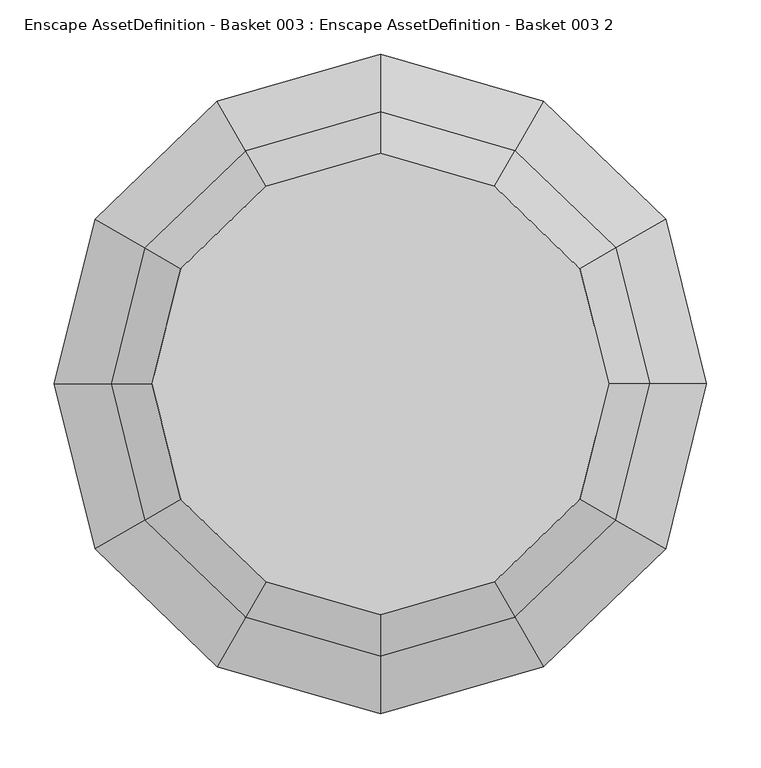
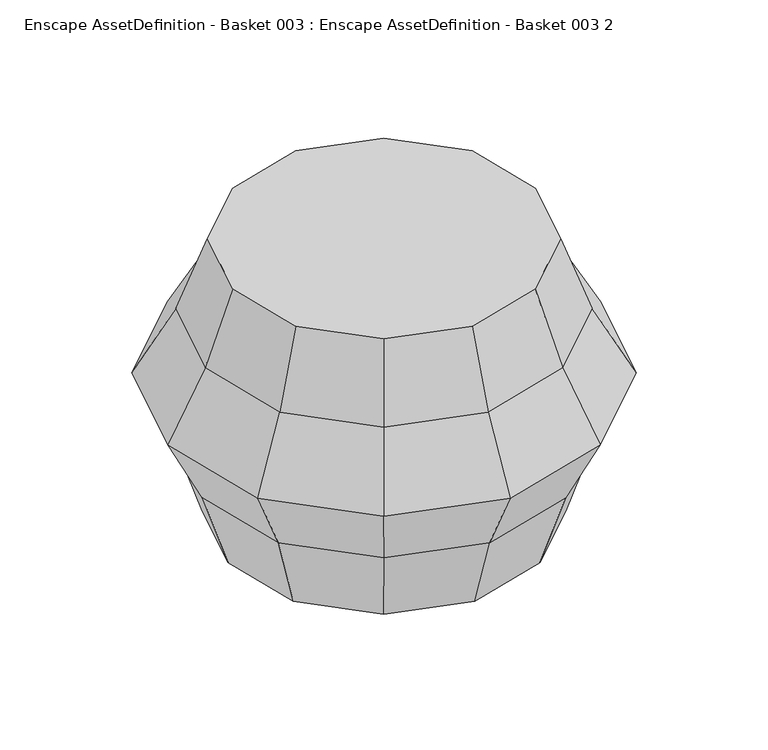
"""IFC4 building model written with IfcOpenShell, lengths in millimetres: geographic element geometry, Enscape AssetDefinition - Basket 003 : Enscape AssetDefinition - Basket 003 2."""

import ifcopenshell
import ifcopenshell.guid

model = None  # the IFC model being written
_history = None  # IfcOwnerHistory: only IFC2X3 demands one
_inside = {}  # id of a spatial element -> (the spatial element, [elements in it])
_under = {}  # id of a project, library or spatial element -> (it, [spatial elements below it])
_declared = {}  # id of a project -> (the project, [libraries it declares])
_typed = {}  # id of a type object -> (the type object, [elements of that type])
_made_of = {}  # id of a material, layer set ... -> (it, [elements and type objects made of it])


def new_model(schema):
    """Start an empty IFC model of exactly this schema.

    Asked for "IFC4X3", IfcOpenShell would pick the latest addendum, in which some entities
    have other attributes; the version numbers below select the first issue.
    IFC2X3 requires an IfcOwnerHistory on every rooted entity: one is made here for all.
    """
    global model, _history
    if schema == "IFC4X3":
        model = ifcopenshell.file(schema_version=(4, 3, 0, 0))
    else:
        model = ifcopenshell.file(schema=schema)
    _inside.clear()
    _under.clear()
    _declared.clear()
    _typed.clear()
    _made_of.clear()
    _history = None
    if model.schema == "IFC2X3":
        org = make("IfcOrganization", Name="unknown")
        user = make(
            "IfcPersonAndOrganization",
            ThePerson=make("IfcPerson", FamilyName="unknown"),
            TheOrganization=org,
        )
        app = make(
            "IfcApplication",
            ApplicationDeveloper=org,
            Version="unknown",
            ApplicationFullName="unknown",
            ApplicationIdentifier="unknown",
        )
        _history = make(
            "IfcOwnerHistory",
            OwningUser=user,
            OwningApplication=app,
            ChangeAction="ADDED",
            CreationDate=0,
        )
    return model


def make(cls, **values):
    """One entity of the class cls with the attributes given. An attribute that is None is left unset."""
    return model.create_entity(
        cls, **{name: value for name, value in values.items() if value is not None}
    )


def rooted(cls, **values):
    """An entity with a GlobalId (a new one), such as an element, a storey or a relation."""
    return make(cls, GlobalId=ifcopenshell.guid.new(), OwnerHistory=_history, **values)


def si_unit(unit_type, name, prefix=None):
    """IfcSIUnit, for example si_unit("LENGTHUNIT", "METRE", prefix="MILLI")."""
    return make("IfcSIUnit", UnitType=unit_type, Prefix=prefix, Name=name)


def assignment(units):
    """IfcUnitAssignment: the units of a project."""
    return None if units is None else make("IfcUnitAssignment", Units=units)


def point(xyz):
    """IfcCartesianPoint."""
    return None if xyz is None else make("IfcCartesianPoint", Coordinates=xyz)


def direction(xyz):
    """IfcDirection."""
    return None if xyz is None else make("IfcDirection", DirectionRatios=xyz)


def frame(location, z_axis=None, x_axis=None):
    """IfcAxis2Placement3D, a coordinate frame: its origin and axes. An axis left out is left unset."""
    return make(
        "IfcAxis2Placement3D",
        Location=point(location),
        Axis=direction(z_axis),
        RefDirection=direction(x_axis),
    )


def origin():
    """The frame at (0, 0, 0) with its axes left unset."""
    return frame((0.0, 0.0, 0.0))


def place(relative_to, where):
    """IfcLocalPlacement: puts the frame where relative to a parent placement (None: the world)."""
    return make(
        "IfcLocalPlacement", PlacementRelTo=relative_to, RelativePlacement=where
    )


def context(
    kind, dimensions, precision=None, world=None, true_north=None, identifier=None
):
    """IfcGeometricRepresentationContext, for example the 3D "Model" context."""
    return make(
        "IfcGeometricRepresentationContext",
        ContextIdentifier=identifier,
        ContextType=kind,
        CoordinateSpaceDimension=dimensions,
        Precision=precision,
        WorldCoordinateSystem=world,
        TrueNorth=true_north,
    )


def project(units=None, contexts=None):
    """IfcProject with its units and contexts."""
    return rooted(
        "IfcProject",
        Name="project",
        RepresentationContexts=contexts,
        UnitsInContext=assignment(units),
    )


def spatial(cls, under=None, at=None, **own):
    """A site, building, storey or space (cls), placed at a placement, below another one or the project."""
    s = rooted(cls, ObjectPlacement=at, **own)
    if under is not None:
        _under.setdefault(under.id(), (under, []))[1].append(s)
    return s


def point_list(points):
    """IfcCartesianPointList2D or 3D."""
    cls = (
        "IfcCartesianPointList2D" if len(points[0]) == 2 else "IfcCartesianPointList3D"
    )
    return make(cls, CoordList=points)


def triangles(points, corners, closed=None, point_numbers=None):
    """IfcTriangulatedFaceSet: each triangle names its three corners, points numbered from 1."""
    return make(
        "IfcTriangulatedFaceSet",
        Coordinates=point_list(points),
        Closed=closed,
        CoordIndex=corners,
        PnIndex=point_numbers,
    )


def shape(context_of_items, identifier, shape_type, items):
    """IfcShapeRepresentation: the items that make up one representation, for example the "Body"."""
    return make(
        "IfcShapeRepresentation",
        ContextOfItems=context_of_items,
        RepresentationIdentifier=identifier,
        RepresentationType=shape_type,
        Items=items,
    )


def source(mapping_origin, context_of_items, identifier, shape_type, items):
    """IfcRepresentationMap: a shape defined once, which mapped items show again and again."""
    return make(
        "IfcRepresentationMap",
        MappingOrigin=mapping_origin,
        MappedRepresentation=shape(context_of_items, identifier, shape_type, items),
    )


def transform(
    local_origin,
    x_axis=None,
    y_axis=None,
    z_axis=None,
    scale=None,
    scale2=None,
    scale3=None,
    uniform=True,
):
    """IfcCartesianTransformationOperator3D, or its non-uniform kind. x_axis, y_axis, z_axis: its Axis1, 2, 3."""
    if uniform:
        return make(
            "IfcCartesianTransformationOperator3D",
            Axis1=direction(x_axis),
            Axis2=direction(y_axis),
            LocalOrigin=point(local_origin),
            Scale=scale,
            Axis3=direction(z_axis),
        )
    return make(
        "IfcCartesianTransformationOperator3DnonUniform",
        Axis1=direction(x_axis),
        Axis2=direction(y_axis),
        LocalOrigin=point(local_origin),
        Scale=scale,
        Axis3=direction(z_axis),
        Scale2=scale2,
        Scale3=scale3,
    )


def mapped(mapping_source, mapping_target):
    """IfcMappedItem: shows the shape of a source again, moved by a transform."""
    return make(
        "IfcMappedItem", MappingSource=mapping_source, MappingTarget=mapping_target
    )


def made_of(thing, what):
    """Note that an element or type object is made of a material, layer set ...; save() writes the relation."""
    if what is not None:
        _made_of.setdefault(what.id(), (what, []))[1].append(thing)
    return thing


def element(
    cls,
    number,
    at=None,
    inside=None,
    cuts=None,
    type_object=None,
    material=None,
    context=None,
    identifier="Body",
    shape_type=None,
    held_by="IfcProductDefinitionShape",
    body=None,
    shapes=None,
    **own,
):
    """One element of the class cls, such as IfcWall. Its Tag is "e" and its number.

    at: its placement. inside: the storey or other place that contains it. cuts: it is an
    opening in that element (IfcRelVoidsElement). A single representation is given by context,
    identifier, shape_type and body (its items); several are given by shapes. held_by: the class
    of the entity that holds the representations. save() writes the other relations.
    """
    e = rooted(cls, Tag="e%d" % number, ObjectPlacement=at, **own)
    if body is not None:
        shapes = [shape(context, identifier, shape_type, body)]
    if shapes is not None:
        e.Representation = make(held_by, Representations=shapes)
    if inside is not None:
        _inside.setdefault(inside.id(), (inside, []))[1].append(e)
    if cuts is not None:
        rooted(
            "IfcRelVoidsElement", RelatingBuildingElement=cuts, RelatedOpeningElement=e
        )
    if type_object is not None:
        _typed.setdefault(type_object.id(), (type_object, []))[1].append(e)
    return made_of(e, material)


def aggregate(whole, parts):
    """IfcRelAggregates: a whole, such as a stair, and the parts it consists of."""
    return rooted("IfcRelAggregates", RelatingObject=whole, RelatedObjects=parts)


def save(model, path):
    """Write the relations noted so far, then the file.

    IfcRelAggregates (storeys below a building ...), IfcRelContainedInSpatialStructure (elements
    in a storey), IfcRelDefinesByType, IfcRelAssociatesMaterial and IfcRelDeclares: one each for
    every whole, place, type object, material and project.
    """
    for whole, parts in _under.values():
        aggregate(whole, parts)
    for where, things in _inside.values():
        rooted(
            "IfcRelContainedInSpatialStructure",
            RelatedElements=things,
            RelatingStructure=where,
        )
    for kind, things in _typed.values():
        rooted("IfcRelDefinesByType", RelatedObjects=things, RelatingType=kind)
    for what, things in _made_of.values():
        rooted("IfcRelAssociatesMaterial", RelatedObjects=things, RelatingMaterial=what)
    for by, libraries in _declared.values():
        rooted("IfcRelDeclares", RelatingContext=by, RelatedDefinitions=libraries)
    model.write(path)


def enscape_assetdefinition_basket_003_enscape_assetdefinition_82603852(model_context):
    return source(origin(), model_context, "Body", "Tessellation", [
        triangles([(126.0853817, 218.3862884, 108.1314903), (108.1370949, 187.2989236, 0.0), (0.0, 254.7839759, 108.1314903), (-126.0853817, 218.3862884, 108.1314903), (-108.1370949, 187.2989236, 0.0), (0.0, 218.515423, 0.0), (-189.2399388, 109.2577115, 0.0), (-216.2741899, -1.55e-05, 0.0), (-220.6494133, 127.3919879, 108.1314903), (-262.7219543, 151.6825928, 202.7124995), (-220.6493952, -127.3920061, 108.1314903), (-252.1707451, -1.55e-05, 108.1314903), (-108.1370949, -187.2989236, 0.0), (-189.2398843, -109.2577478, 0.0), (-150.1268103, -260.027315, 202.7124995), (-126.0853544, -218.3863066, 108.1314903), (108.1370949, -187.2989236, 0.0), (1.55e-05, -218.515423, 0.0), (3.11e-05, -254.7840122, 108.1314903), (126.0853817, -218.3862884, 108.1314903), (189.2399388, -109.2576842, 0.0), (252.1707633, 0.0, 108.1314903), (150.1268557, -260.0272605, 202.7124995), (220.6494678, -127.3919607, 108.1314903), (220.6494678, 127.3919607, 108.1314903), (189.2399388, 109.2576842, 0.0), (216.2741899, 0.0, 0.0), (0.0, 0.0, 0.0), (217.0621505, 125.3208662, 296.9913015), (150.1268557, 260.0272605, 202.7124995), (0.0, 303.3651857, 202.7124995), (262.7219543, 151.6825928, 202.7124995), (124.0355068, 214.8357784, 296.9913015), (183.9524709, 106.2049908, 399.9999667), (248.0710317, 0.0, 296.9913015), (0.0, 212.4099998, 399.9999667), (0.0, 250.6417505, 296.9913015), (105.1157041, 182.0657038, 399.9999667), (1.55e-05, 0.0, 400.0000031), (210.2314083, 0.0, 399.9999667), (300.2537114, 0.0, 202.7124995), (183.952489, -106.2049908, 399.9999667), (124.0355249, -214.8357784, 296.9913015), (217.0621505, -125.3208662, 296.9913015), (262.7219543, -151.6825928, 202.7124995), (105.1157132, -182.0657038, 399.9999667), (3.11e-05, -212.4099998, 399.9999667), (3.11e-05, -250.6417505, 296.9913015), (3.11e-05, -303.3651857, 202.7124995), (-183.9524345, -106.2049999, 399.9999667), (-124.0355068, -214.8357965, 296.9913015), (-105.1156678, -182.0657038, 399.9999667), (-210.2313356, 0.0, 399.9999667), (-217.0621323, -125.3208753, 296.9913015), (-248.0710135, -1.55e-05, 296.9913015), (-262.7219543, -151.682611, 202.7124995), (-300.2536387, -1.55e-05, 202.7124995), (-105.115686, 182.0657038, 399.9999667), (-183.9524345, 106.2049999, 399.9999667), (-124.0355068, 214.8357965, 296.9913015), (-150.1268557, 260.0272968, 202.7124995), (-217.0621323, 125.3208753, 296.9913015)], [[37, 31, 61], [61, 31, 3], [38, 36, 39], [36, 58, 39], [60, 58, 36], [37, 61, 60], [60, 36, 37], [61, 10, 62], [62, 10, 57], [61, 62, 60], [60, 62, 59], [58, 59, 39], [60, 59, 58], [59, 53, 39], [55, 53, 59], [62, 57, 55], [55, 59, 62], [54, 56, 15], [57, 56, 54], [57, 54, 55], [55, 54, 50], [53, 50, 39], [55, 50, 53], [50, 52, 39], [51, 52, 50], [54, 15, 51], [51, 50, 54], [15, 49, 48], [48, 49, 23], [15, 48, 51], [51, 48, 47], [52, 47, 39], [51, 47, 52], [47, 46, 39], [43, 46, 47], [48, 23, 43], [43, 47, 48], [44, 45, 41], [23, 45, 44], [23, 44, 43], [43, 44, 42], [46, 42, 39], [43, 42, 46], [42, 40, 39], [35, 40, 42], [44, 41, 35], [35, 42, 44], [40, 34, 39], [34, 38, 39], [35, 34, 40], [33, 38, 34], [33, 37, 36], [33, 36, 38], [35, 29, 34], [41, 29, 35], [33, 34, 29], [41, 32, 29], [30, 31, 37], [29, 32, 30], [3, 31, 30], [30, 37, 33], [29, 30, 33], [25, 32, 41], [30, 32, 25], [26, 27, 28], [22, 27, 26], [22, 26, 25], [25, 41, 22], [41, 45, 24], [24, 45, 23], [41, 24, 22], [22, 24, 21], [27, 21, 28], [22, 21, 27], [21, 17, 28], [21, 24, 20], [21, 20, 17], [24, 23, 20], [19, 49, 15], [23, 49, 19], [23, 19, 20], [20, 19, 18], [17, 18, 28], [20, 18, 17], [18, 13, 28], [16, 13, 18], [16, 18, 19], [19, 15, 16], [15, 56, 11], [11, 56, 57], [15, 11, 16], [16, 11, 14], [13, 14, 28], [16, 14, 13], [14, 8, 28], [14, 11, 12], [14, 12, 8], [11, 57, 12], [9, 10, 61], [57, 10, 9], [57, 9, 12], [12, 9, 7], [8, 7, 28], [12, 7, 8], [7, 5, 28], [4, 5, 7], [4, 7, 9], [61, 3, 4], [9, 61, 4], [4, 3, 6], [5, 6, 28], [4, 6, 5], [2, 26, 28], [6, 2, 28], [6, 3, 1], [1, 25, 26], [6, 1, 2], [30, 25, 1], [3, 30, 1], [1, 26, 2]]),
    ])


if __name__ == "__main__":
    model = new_model("IFC4")
    model_context = context("Model", 3, world=origin())
    ifc_project = project(units=[si_unit("LENGTHUNIT", "METRE", prefix="MILLI")], contexts=[model_context])
    site = spatial("IfcSite", under=ifc_project)
    building = spatial("IfcBuilding", under=site)
    placement = place(None, origin())
    enscape_assetdefinition_basket_003_enscape_assetdefinition_shape = enscape_assetdefinition_basket_003_enscape_assetdefinition_82603852(model_context)
    element("IfcGeographicElement", 1, ObjectType="Enscape AssetDefinition - Basket 003 : Enscape AssetDefinition - Basket 003 2", at=placement, inside=building, context=model_context, shape_type="MappedRepresentation", body=[
        mapped(enscape_assetdefinition_basket_003_enscape_assetdefinition_shape, transform((0.0, 0.0, 0.0), x_axis=(1.0, 0.0, 0.0), y_axis=(0.0, 1.0, 0.0), z_axis=(0.0, 0.0, 1.0))),
    ])
    save(model, "model.ifc")
